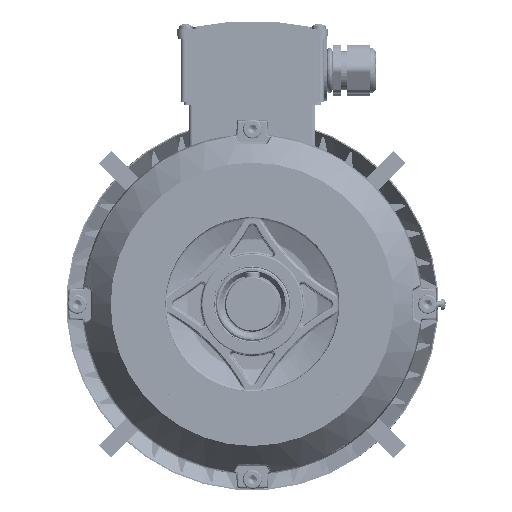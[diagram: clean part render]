
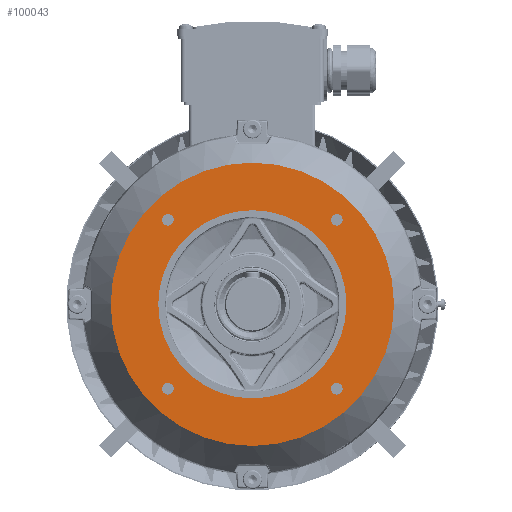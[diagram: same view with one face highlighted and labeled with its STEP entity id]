
A CAD part, left-side view. The second image highlights one B-rep face of the part: STEP entity #100043.
In plain terms, the highlighted planar face has unit normal (-1, 0, 0).
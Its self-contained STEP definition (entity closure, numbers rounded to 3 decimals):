
#21029 = AXIS2_PLACEMENT_3D ( 'NONE', #49956, #49957, #49958 ) ;
#21031 = AXIS2_PLACEMENT_3D ( 'NONE', #49965, #49966, #49967 ) ;
#21035 = AXIS2_PLACEMENT_3D ( 'NONE', #49968, #49969, #49970 ) ;
#21039 = AXIS2_PLACEMENT_3D ( 'NONE', #49974, #49975, #49976 ) ;
#21042 = AXIS2_PLACEMENT_3D ( 'NONE', #49977, #49978, #49979 ) ;
#21044 = AXIS2_PLACEMENT_3D ( 'NONE', #49982, #49983, #49984 ) ;
#36597 = EDGE_CURVE ( 'NONE', #107056, #107032, #52399, .T. ) ;
#36601 = EDGE_CURVE ( 'NONE', #107050, #107043, #52410, .T. ) ;
#36602 = EDGE_CURVE ( 'NONE', #107103, #107094, #52403, .T. ) ;
#36604 = EDGE_CURVE ( 'NONE', #107120, #107118, #52414, .T. ) ;
#36605 = EDGE_CURVE ( 'NONE', #107122, #107116, #52416, .T. ) ;
#36606 = EDGE_CURVE ( 'NONE', #107131, #107124, #52418, .T. ) ;
#49956 = CARTESIAN_POINT ( 'NONE',  ( -292.908, -217.506, 0. ) ) ;
#49957 = DIRECTION ( 'NONE',  ( -1., 0., 0. ) ) ;
#49958 = DIRECTION ( 'NONE',  ( 0., 0., -1. ) ) ;
#49965 = CARTESIAN_POINT ( 'NONE',  ( -292.908, -275.842, 58.336 ) ) ;
#49966 = DIRECTION ( 'NONE',  ( 1., 0., 0. ) ) ;
#49967 = DIRECTION ( 'NONE',  ( 0., 0., -1. ) ) ;
#49968 = CARTESIAN_POINT ( 'NONE',  ( -292.908, -159.17, -58.336 ) ) ;
#49969 = DIRECTION ( 'NONE',  ( 1., 0., 0. ) ) ;
#49970 = DIRECTION ( 'NONE',  ( 0., 0., -1. ) ) ;
#49974 = CARTESIAN_POINT ( 'NONE',  ( -292.908, -217.506, 0. ) ) ;
#49975 = DIRECTION ( 'NONE',  ( 1., 0., 0. ) ) ;
#49976 = DIRECTION ( 'NONE',  ( 0., 0., -1. ) ) ;
#49977 = CARTESIAN_POINT ( 'NONE',  ( -292.908, -159.17, 58.336 ) ) ;
#49978 = DIRECTION ( 'NONE',  ( 1., 0., 0. ) ) ;
#49979 = DIRECTION ( 'NONE',  ( 0., 0., -1. ) ) ;
#49982 = CARTESIAN_POINT ( 'NONE',  ( -292.908, -275.842, -58.336 ) ) ;
#49983 = DIRECTION ( 'NONE',  ( 1., 0., 0. ) ) ;
#49984 = DIRECTION ( 'NONE',  ( 0., 0., -1. ) ) ;
#52399 = CIRCLE ( 'NONE', #21029, 97.867 ) ;
#52403 = CIRCLE ( 'NONE', #21035, 4.012 ) ;
#52410 = CIRCLE ( 'NONE', #21031, 4.012 ) ;
#52414 = CIRCLE ( 'NONE', #21039, 65. ) ;
#52416 = CIRCLE ( 'NONE', #21042, 4.012 ) ;
#52418 = CIRCLE ( 'NONE', #21044, 4.012 ) ;
#70844 = AXIS2_PLACEMENT_3D ( 'NONE', #87946, #87940, #87947 ) ;
#72811 = AXIS2_PLACEMENT_3D ( 'NONE', #127721, #127723, #127725 ) ;
#76432 = FACE_BOUND ( 'NONE', #162783, .T. ) ;
#76474 = FACE_BOUND ( 'NONE', #162696, .T. ) ;
#76481 = FACE_BOUND ( 'NONE', #162800, .T. ) ;
#76482 = FACE_BOUND ( 'NONE', #162772, .T. ) ;
#76485 = FACE_OUTER_BOUND ( 'NONE', #162764, .T. ) ;
#76487 = FACE_BOUND ( 'NONE', #162788, .T. ) ;
#87940 = DIRECTION ( 'NONE',  ( -1., 0., 0. ) ) ;
#87943 = PLANE ( 'NONE',  #70844 ) ;
#87946 = CARTESIAN_POINT ( 'NONE',  ( -292.908, -316.548, -99.042 ) ) ;
#87947 = DIRECTION ( 'NONE',  ( 0., 0., 1. ) ) ;
#100043 = ADVANCED_FACE ( 'NONE', ( #76485, #76432, #76482, #76474, #76487, #76481 ), #87943, .T. ) ;
#106209 = CARTESIAN_POINT ( 'NONE',  ( -292.908, -217.506, 97.867 ) ) ;
#106217 = CARTESIAN_POINT ( 'NONE',  ( -292.908, -275.842, 62.348 ) ) ;
#106222 = CARTESIAN_POINT ( 'NONE',  ( -292.908, -275.842, 54.324 ) ) ;
#106226 = CARTESIAN_POINT ( 'NONE',  ( -292.908, -217.506, -97.867 ) ) ;
#106259 = CARTESIAN_POINT ( 'NONE',  ( -292.908, -159.17, -54.324 ) ) ;
#106265 = CARTESIAN_POINT ( 'NONE',  ( -292.908, -159.17, -62.348 ) ) ;
#106275 = CARTESIAN_POINT ( 'NONE',  ( -292.908, -159.17, 62.348 ) ) ;
#106276 = CARTESIAN_POINT ( 'NONE',  ( -292.908, -217.506, -65. ) ) ;
#106278 = CARTESIAN_POINT ( 'NONE',  ( -292.908, -217.506, 65. ) ) ;
#106280 = CARTESIAN_POINT ( 'NONE',  ( -292.908, -159.17, 54.324 ) ) ;
#106283 = CARTESIAN_POINT ( 'NONE',  ( -292.908, -275.842, -54.324 ) ) ;
#106289 = CARTESIAN_POINT ( 'NONE',  ( -292.908, -275.842, -62.348 ) ) ;
#107032 = VERTEX_POINT ( 'NONE', #106209 ) ;
#107043 = VERTEX_POINT ( 'NONE', #106217 ) ;
#107050 = VERTEX_POINT ( 'NONE', #106222 ) ;
#107056 = VERTEX_POINT ( 'NONE', #106226 ) ;
#107094 = VERTEX_POINT ( 'NONE', #106259 ) ;
#107103 = VERTEX_POINT ( 'NONE', #106265 ) ;
#107116 = VERTEX_POINT ( 'NONE', #106275 ) ;
#107118 = VERTEX_POINT ( 'NONE', #106276 ) ;
#107120 = VERTEX_POINT ( 'NONE', #106278 ) ;
#107122 = VERTEX_POINT ( 'NONE', #106280 ) ;
#107124 = VERTEX_POINT ( 'NONE', #106283 ) ;
#107131 = VERTEX_POINT ( 'NONE', #106289 ) ;
#123767 = CIRCLE ( 'NONE', #72811, 4.012 ) ;
#124260 = CIRCLE ( 'NONE', #129066, 65. ) ;
#124274 = CIRCLE ( 'NONE', #129069, 4.012 ) ;
#124374 = CIRCLE ( 'NONE', #129087, 97.867 ) ;
#124411 = CIRCLE ( 'NONE', #129094, 4.012 ) ;
#124433 = CIRCLE ( 'NONE', #129095, 4.012 ) ;
#127721 = CARTESIAN_POINT ( 'NONE',  ( -292.908, -275.842, 58.336 ) ) ;
#127723 = DIRECTION ( 'NONE',  ( 1., 0., 0. ) ) ;
#127725 = DIRECTION ( 'NONE',  ( 0., 0., -1. ) ) ;
#129066 = AXIS2_PLACEMENT_3D ( 'NONE', #132384, #132386, #132389 ) ;
#129069 = AXIS2_PLACEMENT_3D ( 'NONE', #132449, #132452, #132455 ) ;
#129087 = AXIS2_PLACEMENT_3D ( 'NONE', #135798, #135801, #135804 ) ;
#129094 = AXIS2_PLACEMENT_3D ( 'NONE', #136104, #136106, #136108 ) ;
#129095 = AXIS2_PLACEMENT_3D ( 'NONE', #136451, #136454, #136457 ) ;
#132384 = CARTESIAN_POINT ( 'NONE',  ( -292.908, -217.506, 0. ) ) ;
#132386 = DIRECTION ( 'NONE',  ( 1., 0., 0. ) ) ;
#132389 = DIRECTION ( 'NONE',  ( 0., 0., -1. ) ) ;
#132449 = CARTESIAN_POINT ( 'NONE',  ( -292.908, -275.842, -58.336 ) ) ;
#132452 = DIRECTION ( 'NONE',  ( 1., 0., 0. ) ) ;
#132455 = DIRECTION ( 'NONE',  ( 0., 0., -1. ) ) ;
#135798 = CARTESIAN_POINT ( 'NONE',  ( -292.908, -217.506, 0. ) ) ;
#135801 = DIRECTION ( 'NONE',  ( -1., 0., 0. ) ) ;
#135804 = DIRECTION ( 'NONE',  ( 0., 0., -1. ) ) ;
#136104 = CARTESIAN_POINT ( 'NONE',  ( -292.908, -159.17, 58.336 ) ) ;
#136106 = DIRECTION ( 'NONE',  ( 1., 0., 0. ) ) ;
#136108 = DIRECTION ( 'NONE',  ( 0., 0., -1. ) ) ;
#136451 = CARTESIAN_POINT ( 'NONE',  ( -292.908, -159.17, -58.336 ) ) ;
#136454 = DIRECTION ( 'NONE',  ( 1., 0., 0. ) ) ;
#136457 = DIRECTION ( 'NONE',  ( 0., 0., -1. ) ) ;
#153084 = ORIENTED_EDGE ( 'NONE', *, *, #169590, .T. ) ;
#153087 = ORIENTED_EDGE ( 'NONE', *, *, #36606, .T. ) ;
#153091 = ORIENTED_EDGE ( 'NONE', *, *, #169747, .T. ) ;
#153093 = ORIENTED_EDGE ( 'NONE', *, *, #36605, .T. ) ;
#153096 = ORIENTED_EDGE ( 'NONE', *, *, #36604, .T. ) ;
#153103 = ORIENTED_EDGE ( 'NONE', *, *, #169576, .T. ) ;
#153106 = ORIENTED_EDGE ( 'NONE', *, *, #169771, .T. ) ;
#153109 = ORIENTED_EDGE ( 'NONE', *, *, #36602, .T. ) ;
#153112 = ORIENTED_EDGE ( 'NONE', *, *, #169176, .T. ) ;
#153119 = ORIENTED_EDGE ( 'NONE', *, *, #36601, .T. ) ;
#153122 = ORIENTED_EDGE ( 'NONE', *, *, #169709, .T. ) ;
#153128 = ORIENTED_EDGE ( 'NONE', *, *, #36597, .T. ) ;
#162696 = EDGE_LOOP ( 'NONE', ( #153103, #153096 ) ) ;
#162764 = EDGE_LOOP ( 'NONE', ( #153128, #153122 ) ) ;
#162772 = EDGE_LOOP ( 'NONE', ( #153109, #153106 ) ) ;
#162783 = EDGE_LOOP ( 'NONE', ( #153119, #153112 ) ) ;
#162788 = EDGE_LOOP ( 'NONE', ( #153093, #153091 ) ) ;
#162800 = EDGE_LOOP ( 'NONE', ( #153087, #153084 ) ) ;
#169176 = EDGE_CURVE ( 'NONE', #107043, #107050, #123767, .T. ) ;
#169576 = EDGE_CURVE ( 'NONE', #107118, #107120, #124260, .T. ) ;
#169590 = EDGE_CURVE ( 'NONE', #107124, #107131, #124274, .T. ) ;
#169709 = EDGE_CURVE ( 'NONE', #107032, #107056, #124374, .T. ) ;
#169747 = EDGE_CURVE ( 'NONE', #107116, #107122, #124411, .T. ) ;
#169771 = EDGE_CURVE ( 'NONE', #107094, #107103, #124433, .T. ) ;
